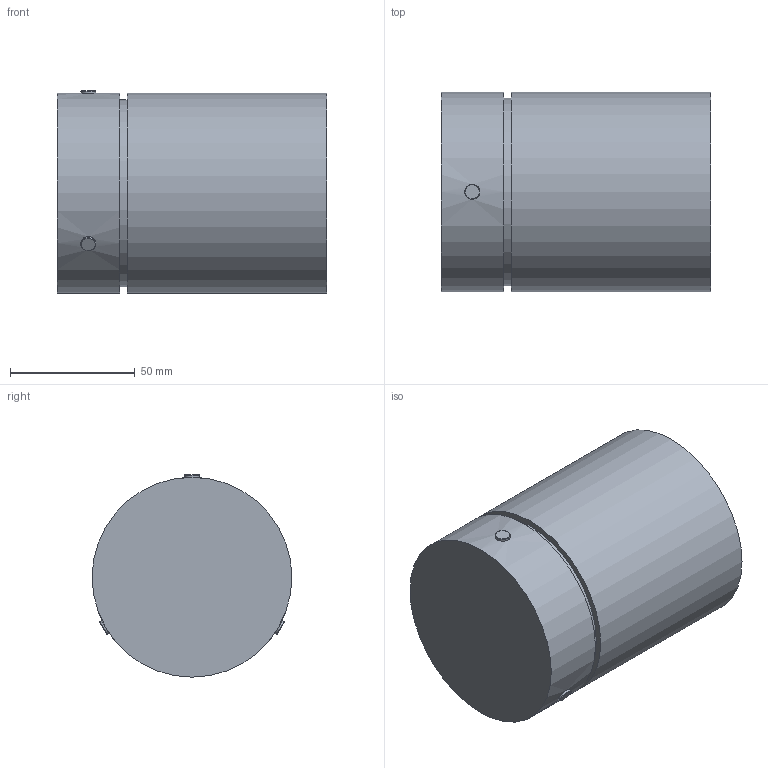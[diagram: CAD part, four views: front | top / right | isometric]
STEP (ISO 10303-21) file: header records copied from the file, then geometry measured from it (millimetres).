
FILE_DESCRIPTION(/* description */ (''),/* implementation_level */ '2;1');
FILE_NAME(/* name */ 'D:\TK Lighting\2021\Vico\6508\Vico6508.stp',/* time_stamp */ '2021-02-01T20:53:59+01:00',/* author */ ('Admin'),/* organization */ (''),/* preprocessor_version */ 'ST-DEVELOPER v16.5',/* originating_system */ 'Autodesk Inventor 2017',/* authorisation */ '');
FILE_SCHEMA (('AUTOMOTIVE_DESIGN { 1 0 10303 214 3 1 1 }'));
Length unit declared in the file: millimetre
Products named in the file (1): Vico6508
Bounding box: 108 x 80 x 81 mm (x, y, z)
Volume: 200022.8 mm3; surface area: 65963.1 mm2
Topology: 1 solids, 2 shells, 27 faces, 47 edges, 31 vertices
Faces by surface type: plane 12, cylinder 9, torus 4, cone 2
Full cylindrical faces by diameter (mm): 6 x3, 48 x1, 52 x1, 75 x1, 76 x1, 80 x2
Entity records: 690 total; most frequent: CARTESIAN_POINT 177, DIRECTION 100, EDGE_LOOP 50, ORIENTED_EDGE 50, AXIS2_PLACEMENT_3D 50, STYLED_ITEM 28, FACE_OUTER_BOUND 27, ADVANCED_FACE 27
